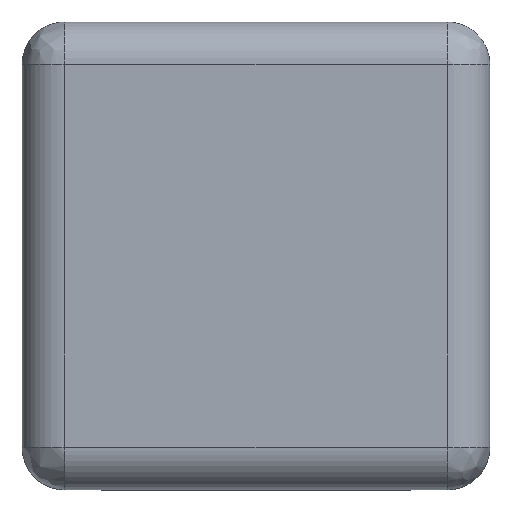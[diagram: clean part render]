
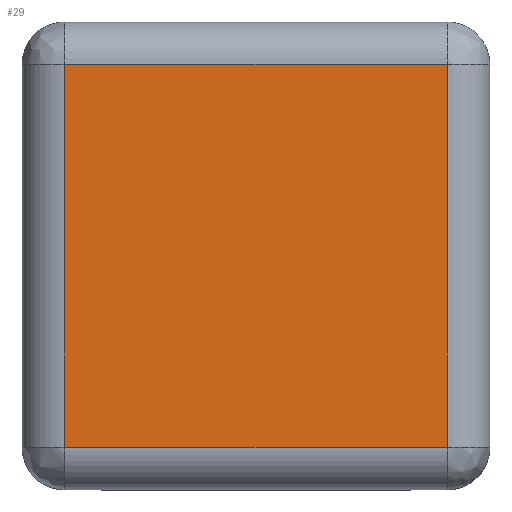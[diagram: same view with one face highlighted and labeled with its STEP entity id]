
A CAD part, top view. The second image highlights one B-rep face of the part: STEP entity #29.
In plain terms, the highlighted free-form (B-spline) face has degree [1, 1] with [2, 2] control points.
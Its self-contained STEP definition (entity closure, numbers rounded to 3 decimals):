
#29=ADVANCED_FACE('',(#161),#3816,.T.);
#161=FACE_OUTER_BOUND('',#293,.T.);
#293=EDGE_LOOP('',(#459,#460,#461,#462));
#459=ORIENTED_EDGE('',*,*,#2611,.T.);
#460=ORIENTED_EDGE('',*,*,#2612,.T.);
#461=ORIENTED_EDGE('',*,*,#2613,.T.);
#462=ORIENTED_EDGE('',*,*,#2614,.T.);
#1171=PCURVE('',#3816,#1747);
#1172=PCURVE('',#3816,#1748);
#1173=PCURVE('',#3816,#1749);
#1174=PCURVE('',#3816,#1750);
#1288=PCURVE('',#3760,#1864);
#1290=PCURVE('',#3761,#1866);
#1317=PCURVE('',#3766,#1893);
#1319=PCURVE('',#3767,#1895);
#1747=DEFINITIONAL_REPRESENTATION('',(#2924),#23577);
#1748=DEFINITIONAL_REPRESENTATION('',(#2926),#23577);
#1749=DEFINITIONAL_REPRESENTATION('',(#2928),#23577);
#1750=DEFINITIONAL_REPRESENTATION('',(#2930),#23577);
#1864=DEFINITIONAL_REPRESENTATION('',(#3096),#23577);
#1866=DEFINITIONAL_REPRESENTATION('',(#3098),#23577);
#1893=DEFINITIONAL_REPRESENTATION('',(#3125),#23577);
#1895=DEFINITIONAL_REPRESENTATION('',(#3127),#23577);
#2323=SURFACE_CURVE('',#2923,(#1171,#1317),.PCURVE_S1.);
#2324=SURFACE_CURVE('',#2925,(#1172,#1319),.PCURVE_S1.);
#2325=SURFACE_CURVE('',#2927,(#1173,#1290),.PCURVE_S1.);
#2326=SURFACE_CURVE('',#2929,(#1174,#1288),.PCURVE_S1.);
#2611=EDGE_CURVE('',#3628,#3630,#2323,.T.);
#2612=EDGE_CURVE('',#3630,#3629,#2324,.T.);
#2613=EDGE_CURVE('',#3629,#3627,#2325,.T.);
#2614=EDGE_CURVE('',#3627,#3628,#2326,.T.);
#2923=B_SPLINE_CURVE_WITH_KNOTS('',1,(#15588,#15589),.UNSPECIFIED.,.F.,
 .F.,(2,2),(0.,450.),.UNSPECIFIED.);
#2924=B_SPLINE_CURVE_WITH_KNOTS('',1,(#15590,#15591),.UNSPECIFIED.,.F.,
 .F.,(2,2),(0.,450.),.UNSPECIFIED.);
#2925=B_SPLINE_CURVE_WITH_KNOTS('',1,(#15592,#15593),.UNSPECIFIED.,.F.,
 .F.,(2,2),(0.,450.),.UNSPECIFIED.);
#2926=B_SPLINE_CURVE_WITH_KNOTS('',1,(#15594,#15595),.UNSPECIFIED.,.F.,
 .F.,(2,2),(0.,450.),.UNSPECIFIED.);
#2927=B_SPLINE_CURVE_WITH_KNOTS('',1,(#15596,#15597),.UNSPECIFIED.,.F.,
 .F.,(2,2),(0.,450.),.UNSPECIFIED.);
#2928=B_SPLINE_CURVE_WITH_KNOTS('',1,(#15598,#15599),.UNSPECIFIED.,.F.,
 .F.,(2,2),(0.,450.),.UNSPECIFIED.);
#2929=B_SPLINE_CURVE_WITH_KNOTS('',1,(#15600,#15601),.UNSPECIFIED.,.F.,
 .F.,(2,2),(0.,450.),.UNSPECIFIED.);
#2930=B_SPLINE_CURVE_WITH_KNOTS('',1,(#15602,#15603),.UNSPECIFIED.,.F.,
 .F.,(2,2),(0.,450.),.UNSPECIFIED.);
#3096=B_SPLINE_CURVE_WITH_KNOTS('',1,(#18692,#18693),.UNSPECIFIED.,.F.,
 .F.,(2,2),(0.,450.),.UNSPECIFIED.);
#3098=B_SPLINE_CURVE_WITH_KNOTS('',1,(#18696,#18697),.UNSPECIFIED.,.F.,
 .F.,(2,2),(0.,450.),.UNSPECIFIED.);
#3125=B_SPLINE_CURVE_WITH_KNOTS('',1,(#18927,#18928),.UNSPECIFIED.,.F.,
 .F.,(2,2),(0.,450.),.UNSPECIFIED.);
#3127=B_SPLINE_CURVE_WITH_KNOTS('',1,(#18931,#18932),.UNSPECIFIED.,.F.,
 .F.,(2,2),(0.,450.),.UNSPECIFIED.);
#3627=VERTEX_POINT('',#15028);
#3628=VERTEX_POINT('',#15029);
#3629=VERTEX_POINT('',#15030);
#3630=VERTEX_POINT('',#15031);
#3760=(
BOUNDED_SURFACE()
B_SPLINE_SURFACE(2,1,((#4210,#4211),(#4212,#4213),(#4214,#4215)),
 .UNSPECIFIED.,.F.,.F.,.F.)
B_SPLINE_SURFACE_WITH_KNOTS((3,3),(2,2),(2.356,3.927),
(50.,500.),.UNSPECIFIED.)
GEOMETRIC_REPRESENTATION_ITEM()
RATIONAL_B_SPLINE_SURFACE(((1.,1.),(0.707,0.707),
(1.,1.)))
REPRESENTATION_ITEM('')
SURFACE()
);
#3761=(
BOUNDED_SURFACE()
B_SPLINE_SURFACE(2,1,((#4216,#4217),(#4218,#4219),(#4220,#4221)),
 .UNSPECIFIED.,.F.,.F.,.F.)
B_SPLINE_SURFACE_WITH_KNOTS((3,3),(2,2),(2.356,3.927),
(50.,500.),.UNSPECIFIED.)
GEOMETRIC_REPRESENTATION_ITEM()
RATIONAL_B_SPLINE_SURFACE(((1.,1.),(0.707,0.707),
(1.,1.)))
REPRESENTATION_ITEM('')
SURFACE()
);
#3766=(
BOUNDED_SURFACE()
B_SPLINE_SURFACE(2,1,((#4437,#4438),(#4439,#4440),(#4441,#4442)),
 .UNSPECIFIED.,.F.,.F.,.F.)
B_SPLINE_SURFACE_WITH_KNOTS((3,3),(2,2),(2.356,3.927),
(-500.,-50.),.UNSPECIFIED.)
GEOMETRIC_REPRESENTATION_ITEM()
RATIONAL_B_SPLINE_SURFACE(((1.,1.),(0.707,0.707),
(1.,1.)))
REPRESENTATION_ITEM('')
SURFACE()
);
#3767=(
BOUNDED_SURFACE()
B_SPLINE_SURFACE(2,1,((#4443,#4444),(#4445,#4446),(#4447,#4448)),
 .UNSPECIFIED.,.F.,.F.,.F.)
B_SPLINE_SURFACE_WITH_KNOTS((3,3),(2,2),(2.356,3.927),
(-500.,-50.),.UNSPECIFIED.)
GEOMETRIC_REPRESENTATION_ITEM()
RATIONAL_B_SPLINE_SURFACE(((1.,1.),(0.707,0.707),
(1.,1.)))
REPRESENTATION_ITEM('')
SURFACE()
);
#3816=B_SPLINE_SURFACE_WITH_KNOTS('',1,1,((#3924,#3925),(#3926,#3927)),
 .UNSPECIFIED.,.F.,.F.,.F.,(2,2),(2,2),(-225.,225.),(-225.,225.),
 .UNSPECIFIED.);
#3924=CARTESIAN_POINT('',(-225.,-225.,258.5));
#3925=CARTESIAN_POINT('',(-225.,225.,258.5));
#3926=CARTESIAN_POINT('',(225.,-225.,258.5));
#3927=CARTESIAN_POINT('',(225.,225.,258.5));
#4210=CARTESIAN_POINT('',(-275.,-225.,208.5));
#4211=CARTESIAN_POINT('',(-275.,225.,208.5));
#4212=CARTESIAN_POINT('',(-275.,-225.,258.5));
#4213=CARTESIAN_POINT('',(-275.,225.,258.5));
#4214=CARTESIAN_POINT('',(-225.,-225.,258.5));
#4215=CARTESIAN_POINT('',(-225.,225.,258.5));
#4216=CARTESIAN_POINT('',(-225.,275.,208.5));
#4217=CARTESIAN_POINT('',(225.,275.,208.5));
#4218=CARTESIAN_POINT('',(-225.,275.,258.5));
#4219=CARTESIAN_POINT('',(225.,275.,258.5));
#4220=CARTESIAN_POINT('',(-225.,225.,258.5));
#4221=CARTESIAN_POINT('',(225.,225.,258.5));
#4437=CARTESIAN_POINT('',(225.,-275.,208.5));
#4438=CARTESIAN_POINT('',(-225.,-275.,208.5));
#4439=CARTESIAN_POINT('',(225.,-275.,258.5));
#4440=CARTESIAN_POINT('',(-225.,-275.,258.5));
#4441=CARTESIAN_POINT('',(225.,-225.,258.5));
#4442=CARTESIAN_POINT('',(-225.,-225.,258.5));
#4443=CARTESIAN_POINT('',(275.,225.,208.5));
#4444=CARTESIAN_POINT('',(275.,-225.,208.5));
#4445=CARTESIAN_POINT('',(275.,225.,258.5));
#4446=CARTESIAN_POINT('',(275.,-225.,258.5));
#4447=CARTESIAN_POINT('',(225.,225.,258.5));
#4448=CARTESIAN_POINT('',(225.,-225.,258.5));
#15028=CARTESIAN_POINT('',(-225.,225.,258.5));
#15029=CARTESIAN_POINT('',(-225.,-225.,258.5));
#15030=CARTESIAN_POINT('',(225.,225.,258.5));
#15031=CARTESIAN_POINT('',(225.,-225.,258.5));
#15588=CARTESIAN_POINT('',(-225.,-225.,258.5));
#15589=CARTESIAN_POINT('',(225.,-225.,258.5));
#15590=CARTESIAN_POINT('',(-225.,-225.));
#15591=CARTESIAN_POINT('',(225.,-225.));
#15592=CARTESIAN_POINT('',(225.,-225.,258.5));
#15593=CARTESIAN_POINT('',(225.,225.,258.5));
#15594=CARTESIAN_POINT('',(225.,-225.));
#15595=CARTESIAN_POINT('',(225.,225.));
#15596=CARTESIAN_POINT('',(225.,225.,258.5));
#15597=CARTESIAN_POINT('',(-225.,225.,258.5));
#15598=CARTESIAN_POINT('',(225.,225.));
#15599=CARTESIAN_POINT('',(-225.,225.));
#15600=CARTESIAN_POINT('',(-225.,225.,258.5));
#15601=CARTESIAN_POINT('',(-225.,-225.,258.5));
#15602=CARTESIAN_POINT('',(-225.,225.));
#15603=CARTESIAN_POINT('',(-225.,-225.));
#18692=CARTESIAN_POINT('',(3.927,500.));
#18693=CARTESIAN_POINT('',(3.927,50.));
#18696=CARTESIAN_POINT('',(3.927,500.));
#18697=CARTESIAN_POINT('',(3.927,50.));
#18927=CARTESIAN_POINT('',(3.927,-50.));
#18928=CARTESIAN_POINT('',(3.927,-500.));
#18931=CARTESIAN_POINT('',(3.927,-50.));
#18932=CARTESIAN_POINT('',(3.927,-500.));
#23577=(
GEOMETRIC_REPRESENTATION_CONTEXT(2)
PARAMETRIC_REPRESENTATION_CONTEXT()
REPRESENTATION_CONTEXT('pspace','')
);
